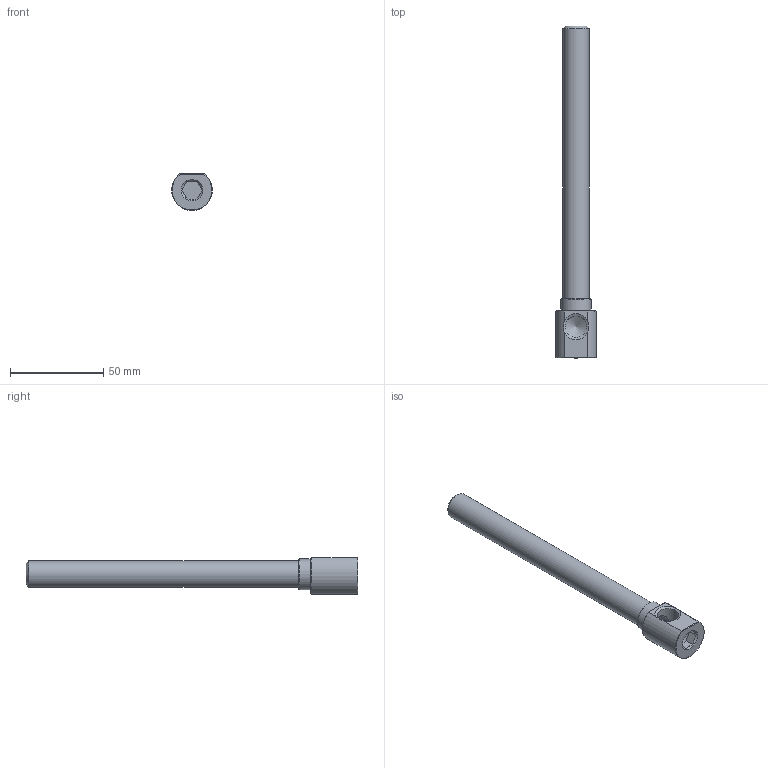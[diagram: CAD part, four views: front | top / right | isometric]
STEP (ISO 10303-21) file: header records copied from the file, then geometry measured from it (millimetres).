
FILE_DESCRIPTION(/* description */ (''),/* implementation_level */ '2;1');
FILE_NAME(/* name */ 'C:/Users/drich/Desktop/EKL14 X 7 v2.step',/* time_stamp */ '2019-11-18T14:33:11-06:00',/* author */ (''),/* organization */ (''),/* preprocessor_version */ 'ST-DEVELOPER v18',/* originating_system */ 'Autodesk Translation Framework v8.12.0.6',/* authorisation */ '');
FILE_SCHEMA (('AUTOMOTIVE_DESIGN { 1 0 10303 214 3 1 1 }'));
Length unit declared in the file: inch
Products named in the file (2): EKL14 X 7; EKL14 X 7_1
Assembly tree (1 placements, depth 2):
  EKL14 X 7
    EKL14 X 7_1
Bounding box: 21.77 x 177.8 x 19.77 mm (x, y, z)
Volume: 21604.9 mm3; surface area: 14165.4 mm2
Topology: 1 solids, 1 shells, 32 faces, 78 edges, 51 vertices
Faces by surface type: plane 16, cone 10, cylinder 6
Full cylindrical faces by diameter (mm): 8.712 x1, 11.176 x1, 11.668 x1, 14.143 x1, 16.51 x1
Entity records: 1051 total; most frequent: CARTESIAN_POINT 246, DIRECTION 159, ORIENTED_EDGE 154, EDGE_CURVE 77, AXIS2_PLACEMENT_3D 63, VERTEX_POINT 51, EDGE_LOOP 38, LINE 33
